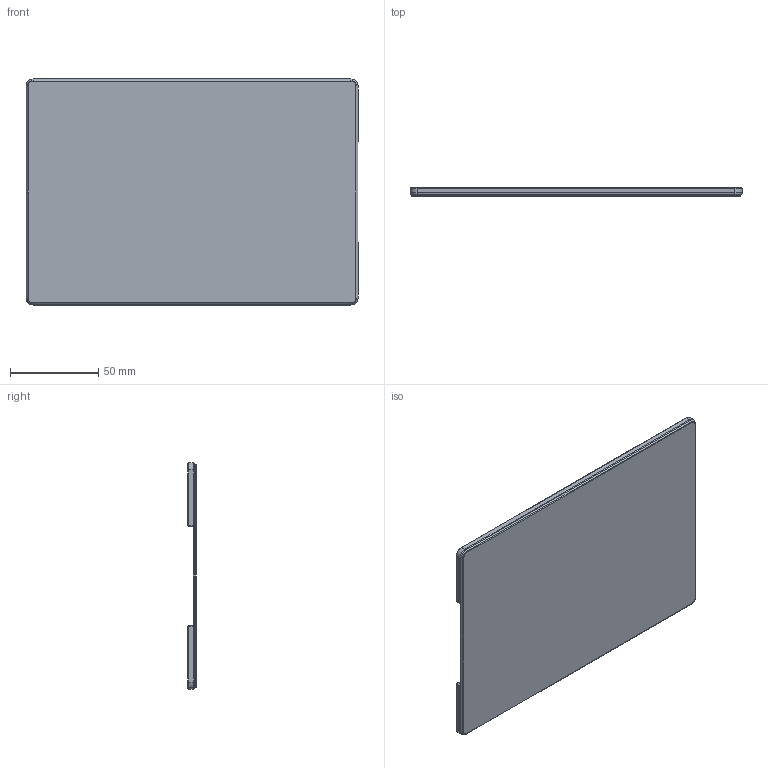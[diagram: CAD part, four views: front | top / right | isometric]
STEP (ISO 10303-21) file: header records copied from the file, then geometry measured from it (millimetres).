
FILE_DESCRIPTION (( 'STEP AP214' ), '1' );
FILE_NAME ('Lid.STEP', '2024-06-05T01:12:08', ( '' ), ( '' ), 'SwSTEP 2.0', 'SolidWorks 2022', '' );
FILE_SCHEMA (( 'AUTOMOTIVE_DESIGN' ));
Length unit declared in the file: millimetre
Products named in the file (1): Lid
Bounding box: 188.2 x 4.6 x 128.2 mm (x, y, z)
Volume: 41049.3 mm3; surface area: 51509.8 mm2
Topology: 1 solids, 1 shells, 109 faces, 249 edges, 138 vertices
Faces by surface type: cylinder 42, plane 39, torus 16, cone 8, bspline 4
Entity records: 3109 total; most frequent: CARTESIAN_POINT 713, DIRECTION 509, ORIENTED_EDGE 490, EDGE_CURVE 245, AXIS2_PLACEMENT_3D 190, VERTEX_POINT 138, LINE 129, VECTOR 129
